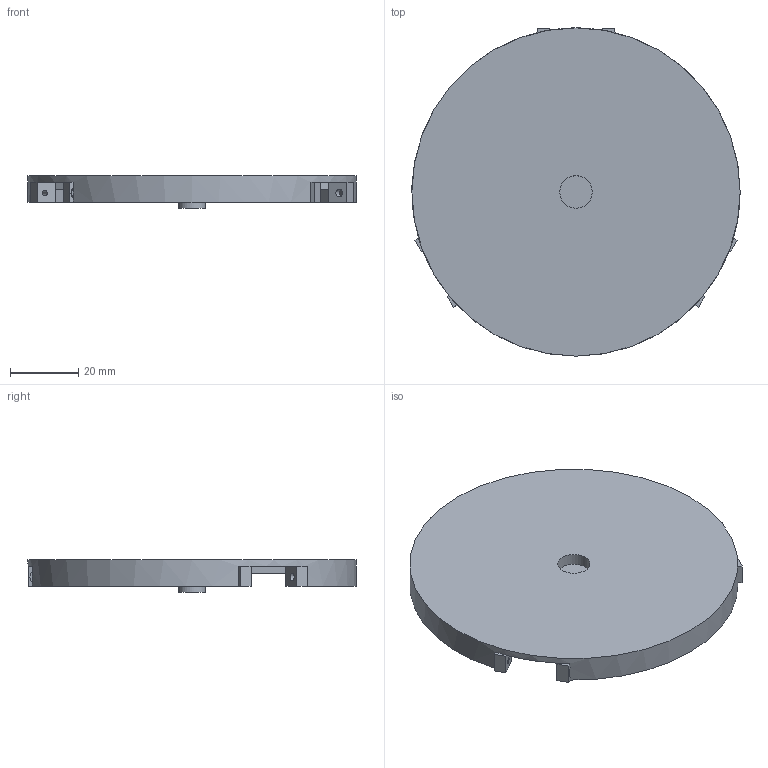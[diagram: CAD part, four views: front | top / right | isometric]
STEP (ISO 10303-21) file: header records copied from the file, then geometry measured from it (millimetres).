
FILE_DESCRIPTION(('Open CASCADE Model'),'2;1');
FILE_NAME('Open CASCADE Shape Model','2026-11-11T19:28:18',('Author'),( 'Open CASCADE'),'Open CASCADE STEP processor 7.9','Open CASCADE 7.9' ,'Unknown');
FILE_SCHEMA(('AUTOMOTIVE_DESIGN { 1 0 10303 214 1 1 1 1 }'));
Length unit declared in the file: millimetre
Products named in the file (1): Open CASCADE STEP translator 7.9 10
Bounding box: 96 x 96 x 9.4 mm (x, y, z)
Volume: 16429.1 mm3; surface area: 19489.6 mm2
Topology: 1 solids, 2 shells, 94 faces, 253 edges, 154 vertices
Faces by surface type: plane 74, cylinder 20
Full cylindrical faces by diameter (mm): 1.7 x3, 2.3 x3, 2.5 x1, 4.2 x3, 7.9 x1, 9.5 x1, 10.4 x1, 96 x1
Entity records: 6228 total; most frequent: CARTESIAN_POINT 1107, DIRECTION 989, LINE 607, VECTOR 607, ORIENTED_EDGE 504, PCURVE 498, DEFINITIONAL_REPRESENTATION 498, EDGE_CURVE 249
